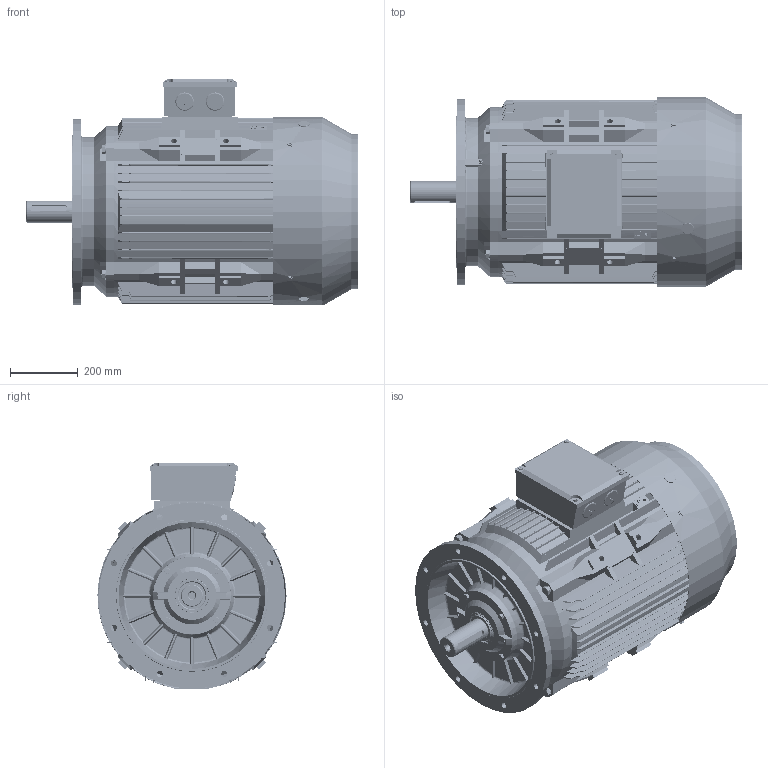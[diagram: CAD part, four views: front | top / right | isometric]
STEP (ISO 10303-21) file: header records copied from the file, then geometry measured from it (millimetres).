
FILE_DESCRIPTION (( 'STEP AP203' ), '1' );
FILE_NAME ('TC 280S-2 B5 外形图.STEP', '2014-12-16T06:33:29', ( '微软用户' ), ( '微软中国' ), 'SwSTEP 2.0', 'SolidWorks 2008', '' );
FILE_SCHEMA (( 'CONFIG_CONTROL_DESIGN' ));
Products named in the file (22): TC 280S-2 B5 俋倛芞; TC 280 轴承外盖NDE_默认; TC 280S-2 转子_默认; M16-50_默认; M10-80_默认; 10_默认; 扣塞_默认; 铜油嘴_默认; TC 280S B5机座_默认; TC280 B3后端盖(170)_默认; TC 280 B5法兰_默认; TC 280 轴承外盖DE_默认; TC 280S-2 转轴_默认; 6316_默认; 油封80-100-10_默认; TC 280 风罩_默认; 16_默认; M8-12_默认; M8-20_默认; 螺塞M50_默认; TC 250-280S接线盒座_默认; TC 250-280S接线盒盖_默认
Assembly tree (41 placements, depth 3):
  TC 280S-2 B5 俋倛芞
    扣塞_默认
    TC 280 轴承外盖DE_默认
    16_默认  x4
    TC 280 风罩_默认
    M16-50_默认  x4
    M10-80_默认  x4
    螺塞M50_默认  x2
    TC 250-280S接线盒座_默认
    TC 250-280S接线盒盖_默认
    M8-20_默认  x4
    10_默认  x4
    M8-12_默认  x4
    TC 280S B5机座_默认
    TC 280S-2 转子_默认
      6316_默认  x2
      TC 280S-2 转轴_默认
    铜油嘴_默认
    油封80-100-10_默认
    TC 280 B5法兰_默认
    TC 280 轴承外盖NDE_默认
    TC280 B3后端盖(170)_默认
Bounding box: 981.2 x 559 x 666.18 mm (x, y, z)
Volume: 34218243.3 mm3; surface area: 6656366.5 mm2
Topology: 41 solids, 42 shells, 9837 faces, 28831 edges, 19076 vertices
Faces by surface type: plane 4910, cylinder 4201, cone 318, torus 231, bspline 115, sphere 62
Entity records: 330900 total; most frequent: CARTESIAN_POINT 72836, ORIENTED_EDGE 54346, DIRECTION 52751, EDGE_CURVE 27173, VERTEX_POINT 18019, AXIS2_PLACEMENT_3D 17964, VECTOR 16823, LINE 16823
